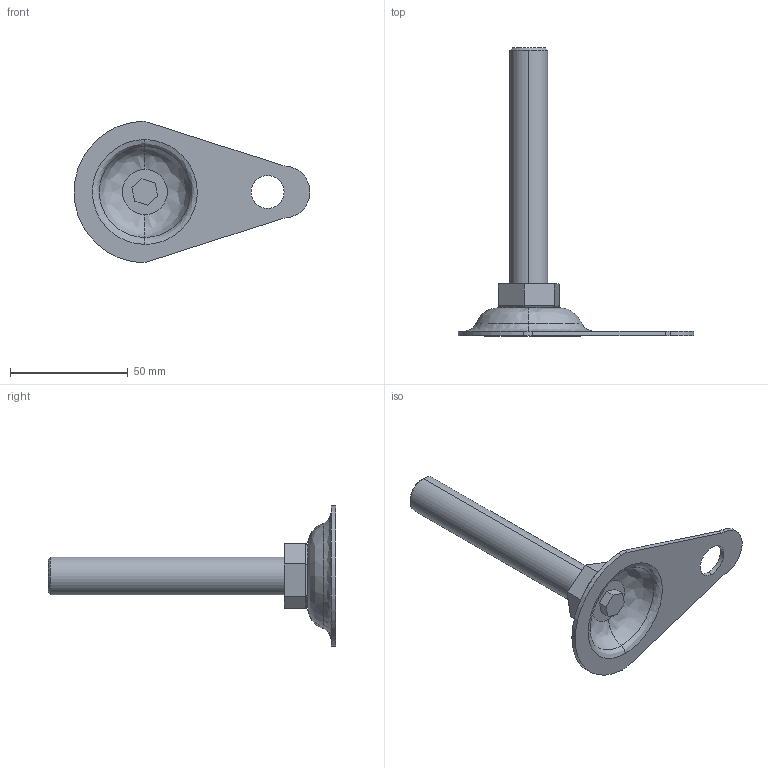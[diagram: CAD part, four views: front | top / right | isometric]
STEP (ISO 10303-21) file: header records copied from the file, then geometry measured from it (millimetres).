
FILE_DESCRIPTION (( 'STEP AP203' ), '1' );
FILE_NAME ('DY-K10016100.STEP', '2018-11-23T03:24:52', ( '' ), ( '' ), 'SwSTEP 2.0', 'SolidWorks 2012', '' );
FILE_SCHEMA (( 'CONFIG_CONTROL_DESIGN' ));
Length unit declared in the file: millimetre
Products named in the file (1): DY-K10016100
Bounding box: 99.96 x 122 x 59.88 mm (x, y, z)
Surface area: 15996.5 mm2 (no closed solid volume)
Topology: 0 solids, 3 shells, 48 faces, 117 edges, 76 vertices
Faces by surface type: plane 21, cylinder 17, bspline 8, cone 2
Entity records: 1952 total; most frequent: CARTESIAN_POINT 782, DIRECTION 227, ORIENTED_EDGE 218, EDGE_CURVE 117, AXIS2_PLACEMENT_3D 83, VERTEX_POINT 76, VECTOR 61, LINE 61
